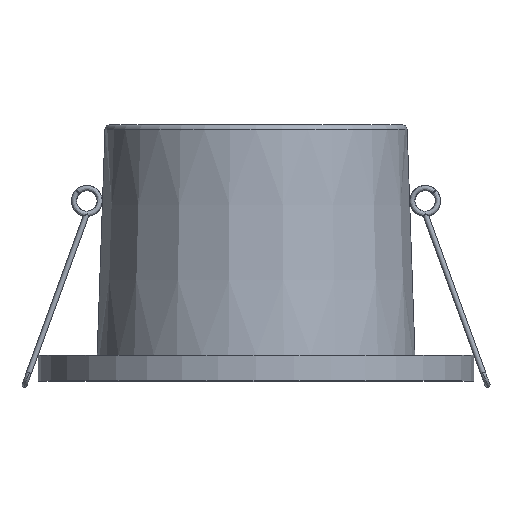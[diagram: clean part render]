
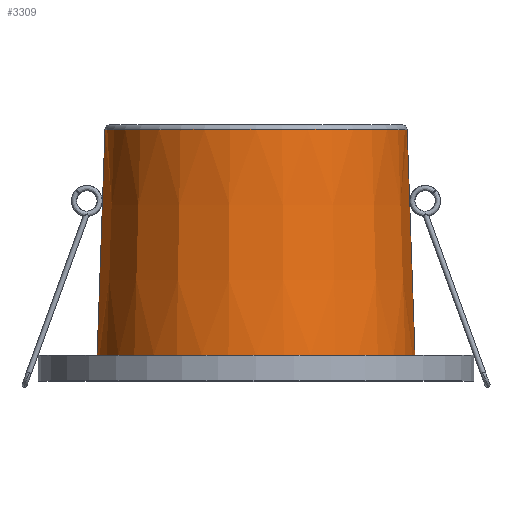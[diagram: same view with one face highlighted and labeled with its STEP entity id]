
A CAD part, top view. The second image highlights one B-rep face of the part: STEP entity #3309.
In plain terms, the highlighted conical face has half-angle 2 degrees and reference radius 31 mm.
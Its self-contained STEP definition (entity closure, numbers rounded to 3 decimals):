
#161 = CARTESIAN_POINT ( 'NONE',  ( 0., 0., 5. ) ) ;
#246 = VERTEX_POINT ( 'NONE', #1979 ) ;
#522 = ORIENTED_EDGE ( 'NONE', *, *, #2775, .F. ) ;
#624 = AXIS2_PLACEMENT_3D ( 'NONE', #3050, #1953, #3238 ) ;
#718 = DIRECTION ( 'NONE',  ( 1., 0., 0. ) ) ;
#845 = AXIS2_PLACEMENT_3D ( 'NONE', #161, #936, #718 ) ;
#858 = CARTESIAN_POINT ( 'NONE',  ( 31., 0., 5. ) ) ;
#870 = VERTEX_POINT ( 'NONE', #2327 ) ;
#890 = EDGE_LOOP ( 'NONE', ( #3033, #1342, #3306, #522 ) ) ;
#936 = DIRECTION ( 'NONE',  ( 0., 0., 1. ) ) ;
#1027 = CARTESIAN_POINT ( 'NONE',  ( 0., 0., 5. ) ) ;
#1040 = CARTESIAN_POINT ( 'NONE',  ( -29.462, 0., 49.035 ) ) ;
#1162 = VECTOR ( 'NONE', #2405, 1000. ) ;
#1221 = LINE ( 'NONE', #3019, #1797 ) ;
#1290 = EDGE_CURVE ( 'NONE', #1612, #870, #1221, .T. ) ;
#1342 = ORIENTED_EDGE ( 'NONE', *, *, #1290, .T. ) ;
#1362 = LINE ( 'NONE', #858, #1162 ) ;
#1612 = VERTEX_POINT ( 'NONE', #1040 ) ;
#1797 = VECTOR ( 'NONE', #2990, 1000. ) ;
#1799 = CONICAL_SURFACE ( 'NONE', #3272, 31., 0.035 ) ;
#1905 = CIRCLE ( 'NONE', #845, 31. ) ;
#1938 = VERTEX_POINT ( 'NONE', #2623 ) ;
#1953 = DIRECTION ( 'NONE',  ( 0., 0., -1. ) ) ;
#1979 = CARTESIAN_POINT ( 'NONE',  ( 31., 0., 5. ) ) ;
#2302 = EDGE_CURVE ( 'NONE', #1938, #1612, #2951, .T. ) ;
#2327 = CARTESIAN_POINT ( 'NONE',  ( -31., 0., 5. ) ) ;
#2405 = DIRECTION ( 'NONE',  ( 0.035, 0., -0.999 ) ) ;
#2424 = EDGE_CURVE ( 'NONE', #870, #246, #1905, .T. ) ;
#2623 = CARTESIAN_POINT ( 'NONE',  ( 29.462, 0., 49.035 ) ) ;
#2775 = EDGE_CURVE ( 'NONE', #1938, #246, #1362, .T. ) ;
#2786 = FACE_OUTER_BOUND ( 'NONE', #890, .T. ) ;
#2951 = CIRCLE ( 'NONE', #624, 29.462 ) ;
#2990 = DIRECTION ( 'NONE',  ( -0.035, 0., -0.999 ) ) ;
#3019 = CARTESIAN_POINT ( 'NONE',  ( -31., 0., 5. ) ) ;
#3033 = ORIENTED_EDGE ( 'NONE', *, *, #2302, .T. ) ;
#3037 = DIRECTION ( 'NONE',  ( 1., 0., 0. ) ) ;
#3050 = CARTESIAN_POINT ( 'NONE',  ( 0., 0., 49.035 ) ) ;
#3238 = DIRECTION ( 'NONE',  ( -1., 0., 0. ) ) ;
#3272 = AXIS2_PLACEMENT_3D ( 'NONE', #1027, #3330, #3037 ) ;
#3306 = ORIENTED_EDGE ( 'NONE', *, *, #2424, .T. ) ;
#3309 = ADVANCED_FACE ( 'NONE', ( #2786 ), #1799, .T. ) ;
#3330 = DIRECTION ( 'NONE',  ( 0., 0., -1. ) ) ;
